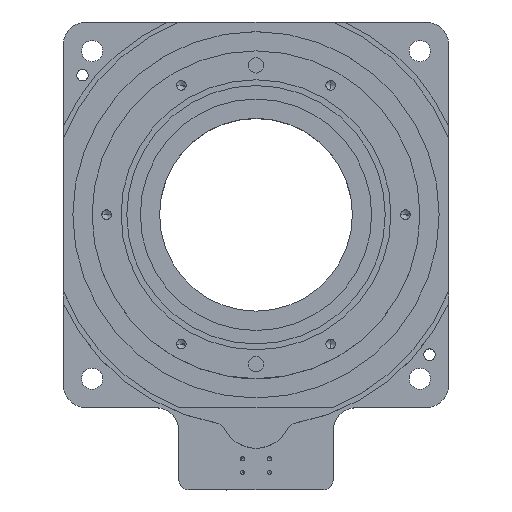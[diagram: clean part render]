
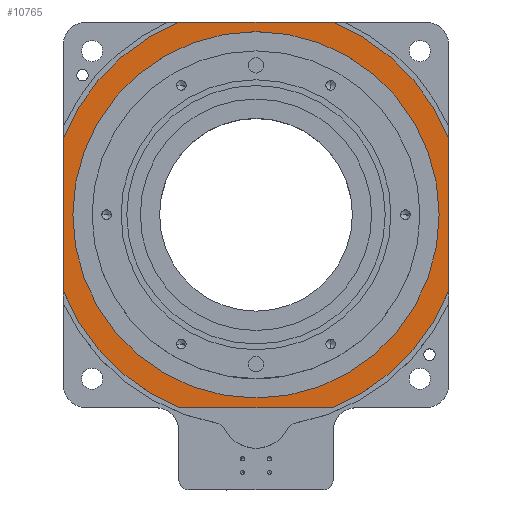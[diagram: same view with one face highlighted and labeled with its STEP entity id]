
A CAD part, top view. The second image highlights one B-rep face of the part: STEP entity #10765.
In plain terms, the highlighted planar face has unit normal (0, 0, 1).
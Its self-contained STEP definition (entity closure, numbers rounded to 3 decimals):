
#95 = EDGE_CURVE ( 'NONE', #12313, #11050, #6888, .T. ) ;
#133 = EDGE_CURVE ( 'NONE', #12320, #12315, #7552, .T. ) ;
#135 = EDGE_CURVE ( 'NONE', #11180, #11098, #7597, .T. ) ;
#151 = EDGE_CURVE ( 'NONE', #12315, #12313, #7598, .T. ) ;
#160 = EDGE_CURVE ( 'NONE', #11085, #11083, #7558, .T. ) ;
#170 = EDGE_CURVE ( 'NONE', #11068, #11075, #7602, .T. ) ;
#174 = EDGE_CURVE ( 'NONE', #11068, #11050, #7603, .T. ) ;
#190 = EDGE_CURVE ( 'NONE', #12320, #11083, #7618, .T. ) ;
#217 = EDGE_CURVE ( 'NONE', #11085, #11075, #7686, .T. ) ;
#664 = AXIS2_PLACEMENT_3D ( 'NONE', #11521, #11524, #11545 ) ;
#680 = AXIS2_PLACEMENT_3D ( 'NONE', #11461, #11422, #11448 ) ;
#700 = AXIS2_PLACEMENT_3D ( 'NONE', #11554, #11621, #11613 ) ;
#701 = AXIS2_PLACEMENT_3D ( 'NONE', #11532, #11523, #11530 ) ;
#721 = AXIS2_PLACEMENT_3D ( 'NONE', #11603, #11637, #11611 ) ;
#907 = AXIS2_PLACEMENT_3D ( 'NONE', #14270, #14242, #14244 ) ;
#2625 = FACE_BOUND ( 'NONE', #6770, .T. ) ;
#2647 = FACE_OUTER_BOUND ( 'NONE', #6774, .T. ) ;
#3129 = CIRCLE ( 'NONE', #907, 95. ) ;
#3460 = EDGE_CURVE ( 'NONE', #11098, #11180, #3129, .T. ) ;
#3640 = ORIENTED_EDGE ( 'NONE', *, *, #95, .F. ) ;
#3641 = ORIENTED_EDGE ( 'NONE', *, *, #3460, .F. ) ;
#3650 = ORIENTED_EDGE ( 'NONE', *, *, #135, .F. ) ;
#3681 = ORIENTED_EDGE ( 'NONE', *, *, #217, .T. ) ;
#3695 = ORIENTED_EDGE ( 'NONE', *, *, #170, .F. ) ;
#3698 = ORIENTED_EDGE ( 'NONE', *, *, #190, .T. ) ;
#3700 = ORIENTED_EDGE ( 'NONE', *, *, #174, .T. ) ;
#3707 = ORIENTED_EDGE ( 'NONE', *, *, #133, .F. ) ;
#3710 = ORIENTED_EDGE ( 'NONE', *, *, #160, .F. ) ;
#3719 = ORIENTED_EDGE ( 'NONE', *, *, #151, .F. ) ;
#6770 = EDGE_LOOP ( 'NONE', ( #3650, #3641 ) ) ;
#6774 = EDGE_LOOP ( 'NONE', ( #3700, #3640, #3719, #3707, #3698, #3710, #3681, #3695 ) ) ;
#6888 = CIRCLE ( 'NONE', #680, 107.5 ) ;
#7050 = AXIS2_PLACEMENT_3D ( 'NONE', #15153, #15120, #15112 ) ;
#7552 = CIRCLE ( 'NONE', #701, 107.5 ) ;
#7558 = CIRCLE ( 'NONE', #700, 107.5 ) ;
#7582 = VECTOR ( 'NONE', #11598, 1000. ) ;
#7597 = CIRCLE ( 'NONE', #664, 95. ) ;
#7598 = LINE ( 'NONE', #11557, #7582 ) ;
#7602 = CIRCLE ( 'NONE', #721, 107.5 ) ;
#7603 = LINE ( 'NONE', #11636, #7653 ) ;
#7618 = LINE ( 'NONE', #11649, #7649 ) ;
#7649 = VECTOR ( 'NONE', #11651, 1000. ) ;
#7653 = VECTOR ( 'NONE', #11643, 1000. ) ;
#7686 = LINE ( 'NONE', #11778, #7689 ) ;
#7689 = VECTOR ( 'NONE', #11755, 1000. ) ;
#8109 = CARTESIAN_POINT ( 'NONE',  ( -100., -39.449, 43. ) ) ;
#8114 = CARTESIAN_POINT ( 'NONE',  ( -100., 39.449, 43. ) ) ;
#8119 = CARTESIAN_POINT ( 'NONE',  ( 100., 39.449, 43. ) ) ;
#8121 = CARTESIAN_POINT ( 'NONE',  ( 39.449, 100., 43. ) ) ;
#8156 = CARTESIAN_POINT ( 'NONE',  ( -95., 0., 43. ) ) ;
#8166 = CARTESIAN_POINT ( 'NONE',  ( -39.449, 100., 43. ) ) ;
#8261 = CARTESIAN_POINT ( 'NONE',  ( 95., 0., 43. ) ) ;
#8293 = CARTESIAN_POINT ( 'NONE',  ( -39.449, -100., 43. ) ) ;
#8329 = CARTESIAN_POINT ( 'NONE',  ( 39.449, -100., 43. ) ) ;
#8343 = CARTESIAN_POINT ( 'NONE',  ( 100., -39.449, 43. ) ) ;
#10765 = ADVANCED_FACE ( 'NONE', ( #2647, #2625 ), #15125, .F. ) ;
#11050 = VERTEX_POINT ( 'NONE', #8109 ) ;
#11068 = VERTEX_POINT ( 'NONE', #8114 ) ;
#11075 = VERTEX_POINT ( 'NONE', #8166 ) ;
#11083 = VERTEX_POINT ( 'NONE', #8119 ) ;
#11085 = VERTEX_POINT ( 'NONE', #8121 ) ;
#11098 = VERTEX_POINT ( 'NONE', #8156 ) ;
#11180 = VERTEX_POINT ( 'NONE', #8261 ) ;
#11422 = DIRECTION ( 'NONE',  ( 0., 0., -1. ) ) ;
#11448 = DIRECTION ( 'NONE',  ( 1., 0., 0. ) ) ;
#11461 = CARTESIAN_POINT ( 'NONE',  ( 0., 0., 43. ) ) ;
#11521 = CARTESIAN_POINT ( 'NONE',  ( 0., 0., 43. ) ) ;
#11523 = DIRECTION ( 'NONE',  ( 0., 0., -1. ) ) ;
#11524 = DIRECTION ( 'NONE',  ( 0., 0., 1. ) ) ;
#11530 = DIRECTION ( 'NONE',  ( 1., 0., 0. ) ) ;
#11532 = CARTESIAN_POINT ( 'NONE',  ( 0., 0., 43. ) ) ;
#11545 = DIRECTION ( 'NONE',  ( 1., 0., 0. ) ) ;
#11554 = CARTESIAN_POINT ( 'NONE',  ( 0., 0., 43. ) ) ;
#11557 = CARTESIAN_POINT ( 'NONE',  ( -88., -100., 43. ) ) ;
#11598 = DIRECTION ( 'NONE',  ( -1., 0., 0. ) ) ;
#11603 = CARTESIAN_POINT ( 'NONE',  ( 0., 0., 43. ) ) ;
#11611 = DIRECTION ( 'NONE',  ( 1., 0., 0. ) ) ;
#11613 = DIRECTION ( 'NONE',  ( 1., 0., 0. ) ) ;
#11621 = DIRECTION ( 'NONE',  ( 0., 0., -1. ) ) ;
#11636 = CARTESIAN_POINT ( 'NONE',  ( -100., 88., 43. ) ) ;
#11637 = DIRECTION ( 'NONE',  ( 0., 0., -1. ) ) ;
#11643 = DIRECTION ( 'NONE',  ( 0., -1., 0. ) ) ;
#11649 = CARTESIAN_POINT ( 'NONE',  ( 100., 88., 43. ) ) ;
#11651 = DIRECTION ( 'NONE',  ( 0., 1., 0. ) ) ;
#11755 = DIRECTION ( 'NONE',  ( -1., 0., 0. ) ) ;
#11778 = CARTESIAN_POINT ( 'NONE',  ( -88., 100., 43. ) ) ;
#12313 = VERTEX_POINT ( 'NONE', #8293 ) ;
#12315 = VERTEX_POINT ( 'NONE', #8329 ) ;
#12320 = VERTEX_POINT ( 'NONE', #8343 ) ;
#14242 = DIRECTION ( 'NONE',  ( 0., 0., 1. ) ) ;
#14244 = DIRECTION ( 'NONE',  ( 1., 0., 0. ) ) ;
#14270 = CARTESIAN_POINT ( 'NONE',  ( 0., 0., 43. ) ) ;
#15112 = DIRECTION ( 'NONE',  ( -1., 0., 0. ) ) ;
#15120 = DIRECTION ( 'NONE',  ( 0., 0., -1. ) ) ;
#15125 = PLANE ( 'NONE',  #7050 ) ;
#15153 = CARTESIAN_POINT ( 'NONE',  ( -88., -88., 43. ) ) ;
